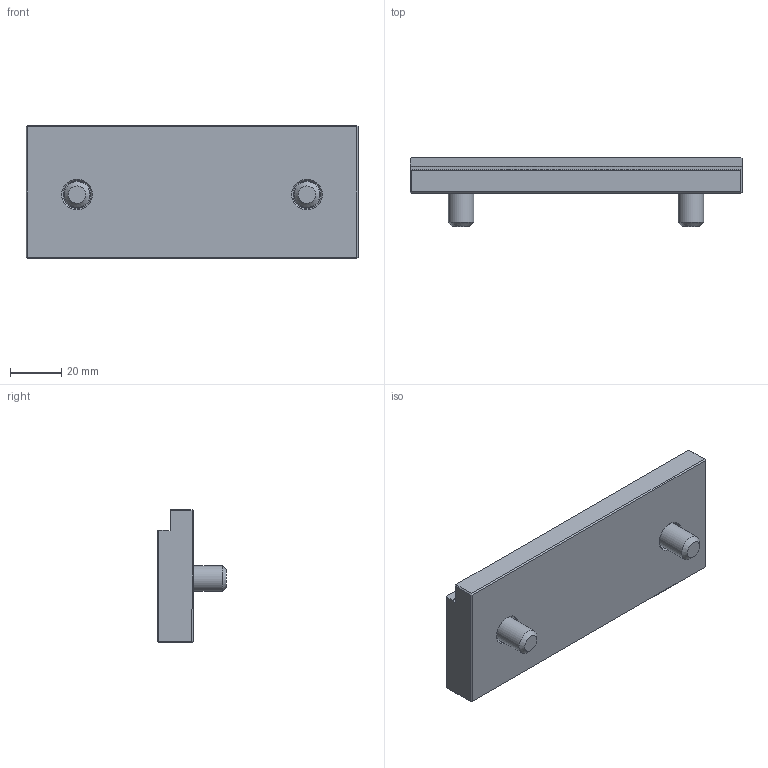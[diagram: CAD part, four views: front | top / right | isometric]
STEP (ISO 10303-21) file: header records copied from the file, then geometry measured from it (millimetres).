
FILE_DESCRIPTION(('STEP AP214'), '1');
FILE_NAME('BB.VS.130.70.040', '', ('UNSPECIFIED'), ('UNSPECIFIED'), 'C3D Converter', 'C3D Toolkit', '');
FILE_SCHEMA(('AUTOMOTIVE_DESIGN { 1 0 10303 214 3 1 1}'));
Length unit declared in the file: millimetre
Products named in the file (1): BB.VS.130.70.040 СБ
Bounding box: 130 x 27 x 52 mm (x, y, z)
Volume: 88854.3 mm3; surface area: 22056.2 mm2
Topology: 1 solids, 1 shells, 72 faces, 156 edges, 94 vertices
Faces by surface type: plane 49, cone 10, cylinder 9, torus 4
Full cylindrical faces by diameter (mm): 10 x2, 11 x2, 16 x2, 18 x2
Entity records: 2855 total; most frequent: CARTESIAN_POINT 787, DIRECTION 294, ORIENTED_EDGE 264, EDGE_CURVE 132, AXIS2_PLACEMENT_3D 103, EDGE_LOOP 102, VERTEX_POINT 92, LINE 88
